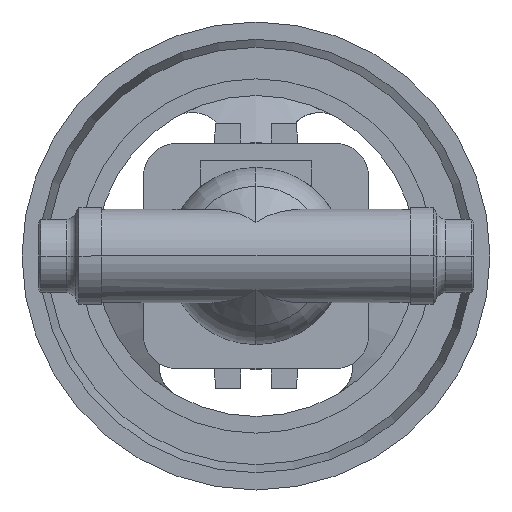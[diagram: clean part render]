
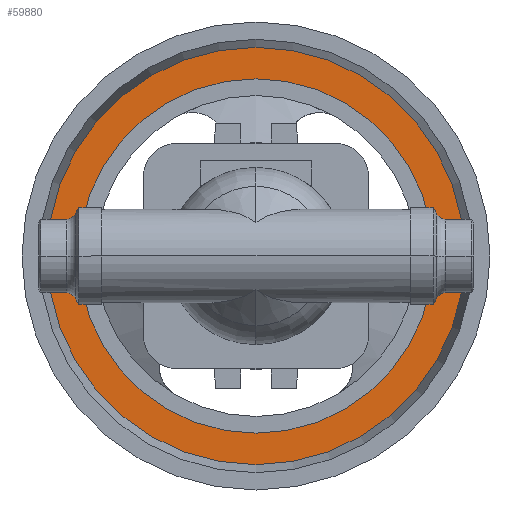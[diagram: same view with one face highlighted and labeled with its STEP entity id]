
A CAD part, front view. The second image highlights one B-rep face of the part: STEP entity #59880.
In plain terms, the highlighted planar face has unit normal (0, -1, 0).
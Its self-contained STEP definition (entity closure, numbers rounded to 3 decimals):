
#59330=CARTESIAN_POINT('',(2.588,246.5,0.));
#59340=VERTEX_POINT('',#59330);
#59370=CARTESIAN_POINT('',(65.,246.5,0.));
#59380=DIRECTION('',(0.,1.,0.));
#59390=DIRECTION('',(-1.,0.,0.));
#59400=AXIS2_PLACEMENT_3D('',#59370,#59380,#59390);
#59410=CIRCLE('',#59400,62.412);
#59420=CARTESIAN_POINT('',(127.412,246.5,0.)
);
#59430=VERTEX_POINT('',#59420);
#59440=EDGE_CURVE('',#59430,#59340,#59410,.T.);
#59630=CARTESIAN_POINT('',(7.294,246.5,0.));
#59640=DIRECTION('',(0.,-1.,0.));
#59650=DIRECTION('',(1.,0.,0.));
#59660=AXIS2_PLACEMENT_3D('',#59630,#59640,#59650);
#59670=PLANE('',#59660);
#59680=ORIENTED_EDGE('',*,*,#59440,.F.);
#59690=EDGE_CURVE('',#59340,#59430,#59410,.T.);
#59700=ORIENTED_EDGE('',*,*,#59690,.F.);
#59710=EDGE_LOOP('',(#59700,#59680));
#59720=FACE_OUTER_BOUND('',#59710,.T.);
#59730=CARTESIAN_POINT('',(65.,246.5,0.));
#59740=DIRECTION('',(0.,1.,0.));
#59750=DIRECTION('',(-1.,0.,0.));
#59760=AXIS2_PLACEMENT_3D('',#59730,#59740,#59750);
#59770=CIRCLE('',#59760,53.);
#59780=CARTESIAN_POINT('',(12.,246.5,0.));
#59790=VERTEX_POINT('',#59780);
#59800=CARTESIAN_POINT('',(118.,246.5,0.));
#59810=VERTEX_POINT('',#59800);
#59820=EDGE_CURVE('',#59790,#59810,#59770,.T.);
#59830=ORIENTED_EDGE('',*,*,#59820,.T.);
#59840=EDGE_CURVE('',#59810,#59790,#59770,.T.);
#59850=ORIENTED_EDGE('',*,*,#59840,.T.);
#59860=EDGE_LOOP('',(#59850,#59830));
#59870=FACE_BOUND('',#59860,.T.);
#59880=ADVANCED_FACE('',(#59720,#59870),#59670,.T.);
